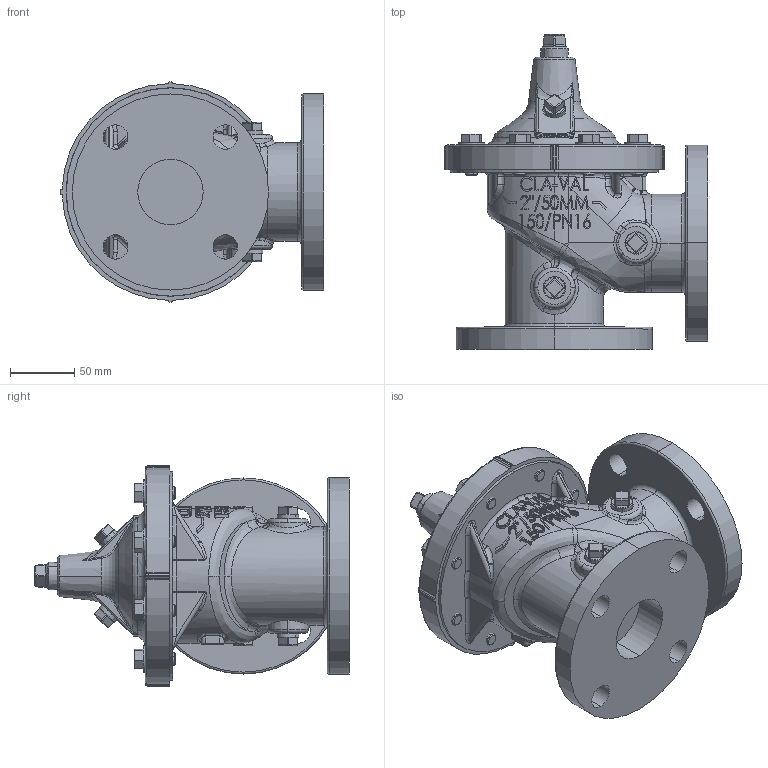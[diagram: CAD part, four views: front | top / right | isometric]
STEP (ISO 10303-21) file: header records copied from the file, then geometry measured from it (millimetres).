
FILE_DESCRIPTION (( 'STEP AP203' ), '1' );
FILE_NAME ('2in 100-01 150AA.STEP', '2019-08-30T14:53:37', ( '' ), ( '' ), 'SwSTEP 2.0', 'SolidWorks 2018', '' );
FILE_SCHEMA (( 'CONFIG_CONTROL_DESIGN' ));
Length unit declared in the file: inch
Products named in the file (7): Bolt .375-16 UNC  (67605)_1.00   67605-05F; .500 NPT SQ HD PIPE PLUG (67660)_STEEL CP (FORGED); 2in 100-01 150AA; WASHER FOR .375 SCREW (67748)_.375N   67748-04G; 2in Cover (no core) 100-01_No Spotface; 2in Body HyAn150 STD_Flat Face; .375 NPT SQ HD PIPE PLUG (67660)_STEEL CP (FORGED)
Assembly tree (25 placements, depth 2):
  2in 100-01 150AA
    2in Body HyAn150 STD_Flat Face
    2in Cover (no core) 100-01_No Spotface
    Bolt .375-16 UNC  (67605)_1.00   67605-05F  x8
    .375 NPT SQ HD PIPE PLUG (67660)_STEEL CP (FORGED)  x6
    .500 NPT SQ HD PIPE PLUG (67660)_STEEL CP (FORGED)
    WASHER FOR .375 SCREW (67748)_.375N   67748-04G  x8
Bounding box: 204.71 x 244.6 x 171.17 mm (x, y, z)
Volume: 2284980.6 mm3; surface area: 281833.4 mm2
Topology: 25 solids, 25 shells, 1308 faces, 3095 edges, 1834 vertices
Faces by surface type: plane 375, cylinder 336, bspline 293, cone 166, torus 72, sphere 66
Entity records: 41879 total; most frequent: CARTESIAN_POINT 19137, ORIENTED_EDGE 4834, DIRECTION 4087, EDGE_CURVE 2417, AXIS2_PLACEMENT_3D 1663, VERTEX_POINT 1470, EDGE_LOOP 1109, ADVANCED_FACE 1008
